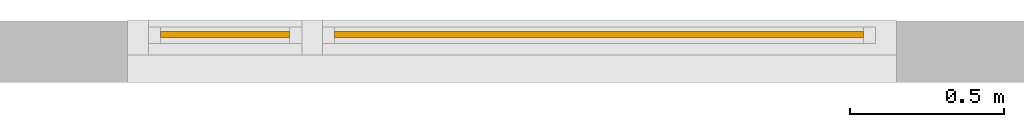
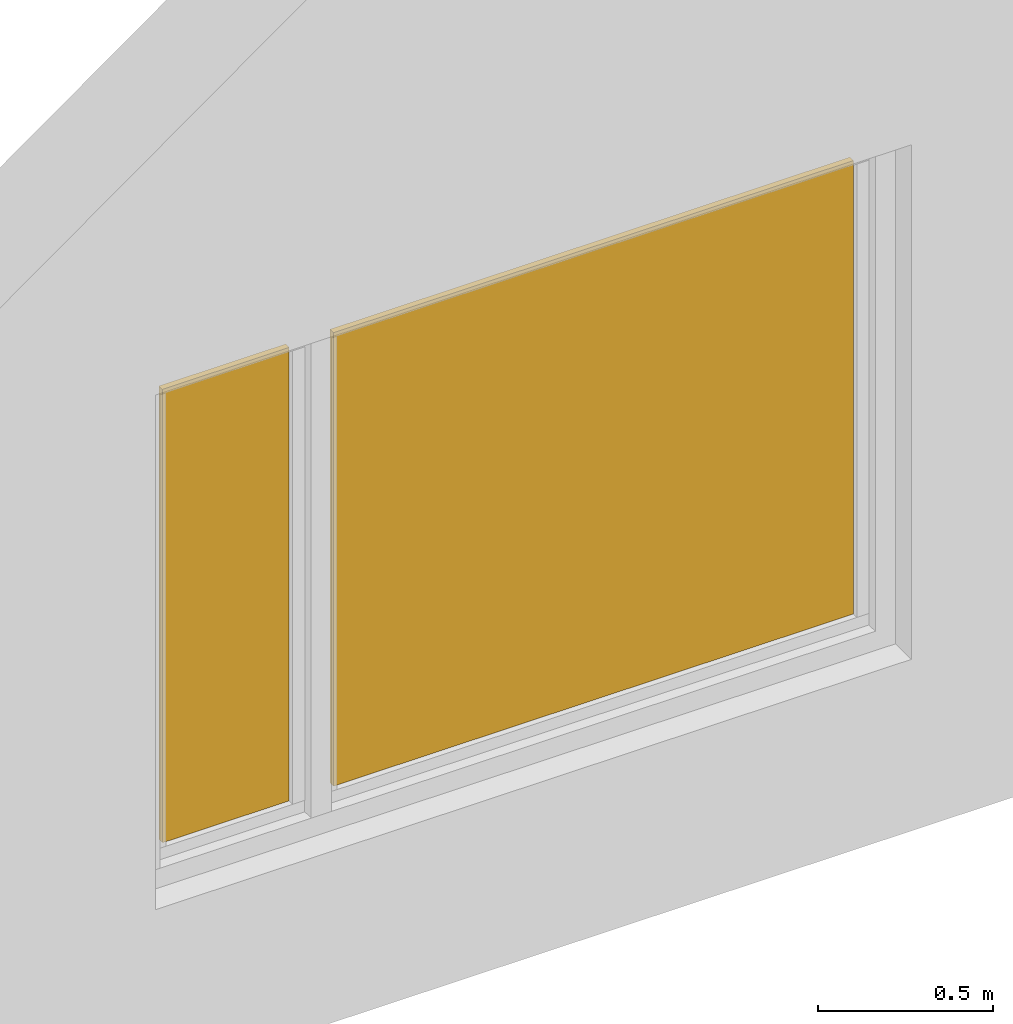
# One storey, part 2 of 3: 2 windows.
"""IFC2X3 building model written with IfcOpenShell, lengths in millimetres."""

from ifc_helpers import new_model, entity, si_unit, converted_unit, derived_unit, direction, frame, origin, origin_2d_with_axis, place, context, subcontext, project, spatial, rectangle, extrude, source, transform, mapped, material, type_object, type_shapes, element, save


model = new_model("IFC2X3")

# Units and contexts
model_context = context("Model", 3, precision=0.01, world=origin(), true_north=direction((6.12303176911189e-17, 1.0)))
body_context = subcontext(model_context, "Body", "Model", "MODEL_VIEW")
ifc_project = project(units=[si_unit("LENGTHUNIT", "METRE", prefix="MILLI"), si_unit("AREAUNIT", "SQUARE_METRE"), si_unit("VOLUMEUNIT", "CUBIC_METRE"), converted_unit("PLANEANGLEUNIT", "DEGREE", entity("IfcRatioMeasure", 0.0174532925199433), si_unit("PLANEANGLEUNIT", "RADIAN"), dimensions=[0, 0, 0, 0, 0, 0, 0]), si_unit("MASSUNIT", "GRAM", prefix="KILO"), si_unit("TIMEUNIT", "SECOND"), si_unit("FREQUENCYUNIT", "HERTZ"), si_unit("THERMODYNAMICTEMPERATUREUNIT", "KELVIN"), derived_unit("THERMALTRANSMITTANCEUNIT", [(si_unit("MASSUNIT", "GRAM", prefix="KILO"), 1), (si_unit("THERMODYNAMICTEMPERATUREUNIT", "KELVIN"), -1), (si_unit("TIMEUNIT", "SECOND"), -3)]), derived_unit("VOLUMETRICFLOWRATEUNIT", [(si_unit("LENGTHUNIT", "METRE"), 3), (si_unit("TIMEUNIT", "SECOND"), -1)]), si_unit("ELECTRICCURRENTUNIT", "AMPERE"), si_unit("ELECTRICVOLTAGEUNIT", "VOLT"), si_unit("POWERUNIT", "WATT")], contexts=[model_context])

# Site, building, storey
site_placement = place(None, origin())
site = spatial("IfcSite", under=ifc_project, at=site_placement, Name="Default", CompositionType="ELEMENT")
building_placement = place(site_placement, origin())
building = spatial("IfcBuilding", under=site, at=building_placement, CompositionType="ELEMENT")
storey_placement = place(building_placement, origin())
storey = spatial("IfcBuildingStorey", under=building, at=storey_placement, Name="Level 1", CompositionType="ELEMENT", Elevation=0.0)

# Windows
ifc_material = material(Name="Glass")
window_style_1 = type_object("IfcWindowStyle", Name="draai_rechts", ConstructionType="NOTDEFINED", OperationType="NOTDEFINED", ParameterTakesPrecedence=False, Sizeable=False, material=ifc_material)
shared_shape_1 = source(origin(), body_context, "Body", "SweptSolid", [
    extrude(rectangle(XDim=419.5, YDim=1586.0, at=origin_2d_with_axis()), frame((0.0, 0.0, -20.0)), (0.0, 0.0, 1.0), 20.0),
])
type_shapes(window_style_1, [shared_shape_1])
window_1_placement = place(storey_placement, frame((2032.37123039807, 1608.21833534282, 1500.0), z_axis=(0.0, -1.0, 0.0), x_axis=(1.0, 0.0, 0.0)))
element("IfcWindow", 1, at=window_1_placement, inside=storey, type_object=window_style_1, material=ifc_material, Name="30_WI_vulling:draai_rechts", ObjectType="draai_rechts", OverallHeight=54.0000000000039, OverallWidth=499.500000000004, context=body_context, shape_type="MappedRepresentation", body=[
    mapped(shared_shape_1, transform((0.0, 0.0, 0.0), scale=1.0)),
])
window_style_2 = type_object("IfcWindowStyle", Name="draai_links", ConstructionType="NOTDEFINED", OperationType="NOTDEFINED", ParameterTakesPrecedence=False, Sizeable=False, material=ifc_material)
shared_shape_2 = source(origin(), body_context, "Body", "SweptSolid", [
    extrude(rectangle(XDim=1719.5, YDim=1586.0, at=origin_2d_with_axis()), frame((0.0, 0.0, -20.0)), (0.0, 0.0, 1.0), 20.0),
])
type_shapes(window_style_2, [shared_shape_2])
window_2_placement = place(storey_placement, frame((3248.87123039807, 1608.21833534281, 1500.0), z_axis=(0.0, -1.0, 0.0), x_axis=(1.0, 0.0, 0.0)))
element("IfcWindow", 2, at=window_2_placement, inside=storey, type_object=window_style_2, material=ifc_material, Name="30_WI_vulling:draai_links", ObjectType="draai_links", OverallHeight=54.0000000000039, OverallWidth=1799.5, context=body_context, shape_type="MappedRepresentation", body=[
    mapped(shared_shape_2, transform((0.0, 0.0, 0.0), scale=1.0)),
])

save(model, "model.ifc")
